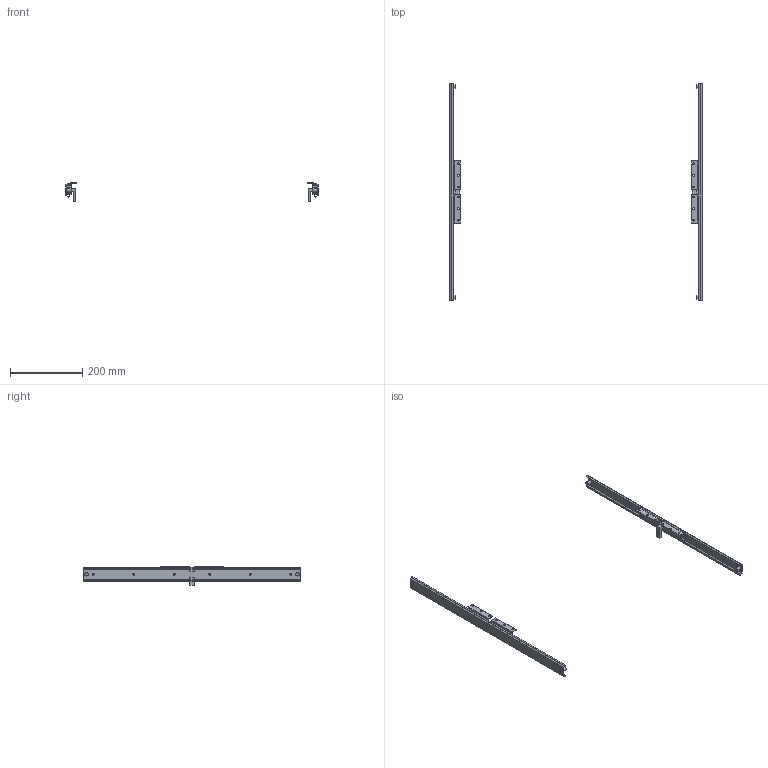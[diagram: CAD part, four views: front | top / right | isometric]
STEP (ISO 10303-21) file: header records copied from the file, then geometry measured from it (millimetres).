
FILE_DESCRIPTION( ( '' ), '1' );
FILE_NAME( 'D:/HETTCAD 2014/DATA TRANSFER/AUTOCAD EXPORT/SENT/Sheet m_6/sent/9131984/9133036.stp', '2014-06-20T06:11:32', ( '' ), ( '' ), ' ', ' ', ' ' );
FILE_SCHEMA( ( 'CONFIG_CONTROL_DESIGN' ) );
Length unit declared in the file: millimetre
Products named in the file (2): 1; 2
Bounding box: 700 x 600 x 51.9 mm (x, y, z)
Volume: 166612.4 mm3; surface area: 175824.2 mm2
Topology: 2 solids, 2 shells, 212 faces, 604 edges, 392 vertices
Faces by surface type: plane 144, cylinder 68
Entity records: 7056 total; most frequent: CARTESIAN_POINT 1210, ORIENTED_EDGE 1208, DIRECTION 1168, EDGE_CURVE 604, LINE 468, VECTOR 468, VERTEX_POINT 392, AXIS2_PLACEMENT_3D 350
